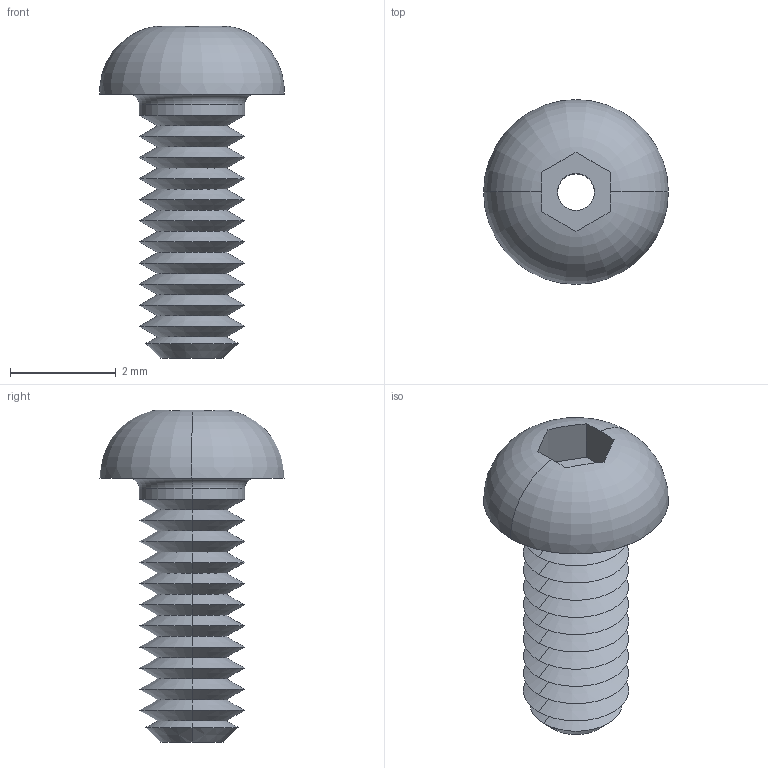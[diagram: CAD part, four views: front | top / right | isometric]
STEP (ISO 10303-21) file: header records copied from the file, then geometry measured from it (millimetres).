
FILE_DESCRIPTION (( 'STEP AP203' ), '1' );
FILE_NAME ('P0094.020-005-A2.step', '2019-07-12T16:49:04', ( '' ), ( '' ), 'SwSTEP 2.0', 'SolidWorks 2017', '' );
FILE_SCHEMA (( 'CONFIG_CONTROL_DESIGN' ));
Length unit declared in the file: millimetre
Products named in the file (1): P0094.020-005-A2
Bounding box: 3.5 x 3.5 x 6.29 mm (x, y, z)
Volume: 17.3 mm3; surface area: 88.4 mm2
Topology: 1 solids, 1 shells, 63 faces, 132 edges, 72 vertices
Faces by surface type: cone 46, plane 9, cylinder 4, torus 4
Entity records: 1745 total; most frequent: DIRECTION 314, CARTESIAN_POINT 304, ORIENTED_EDGE 264, EDGE_CURVE 132, AXIS2_PLACEMENT_3D 126, VERTEX_POINT 72, EDGE_LOOP 66, ADVANCED_FACE 63
